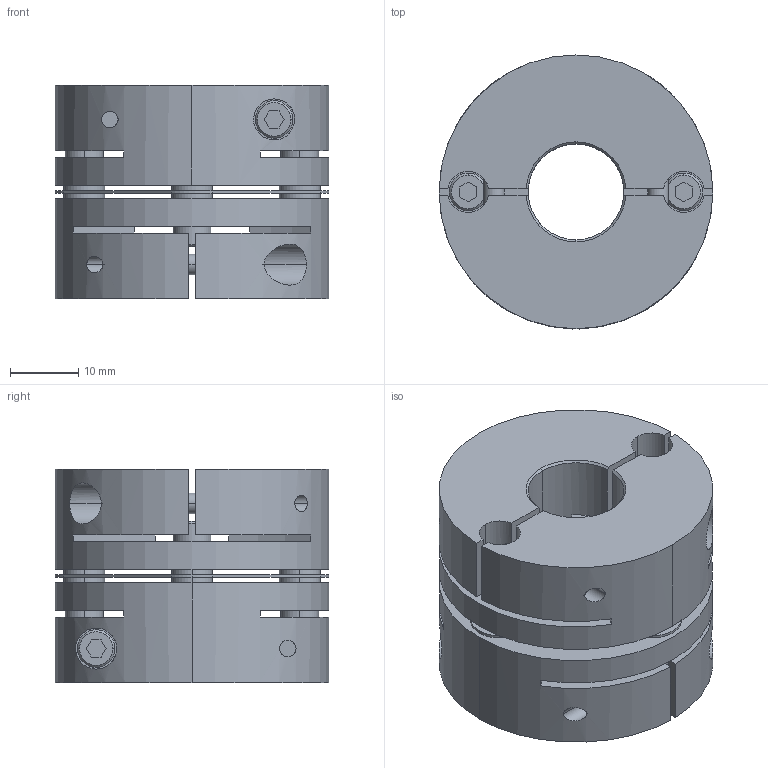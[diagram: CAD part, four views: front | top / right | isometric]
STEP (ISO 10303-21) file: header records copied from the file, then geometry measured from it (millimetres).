
FILE_DESCRIPTION((''),'2;1');
FILE_NAME('LAS-40C-14×20.stp','2011-08-11T09:02:29',(''),(''),'AutoCAD STEP 2000i','AutoCAD 2000i',', , ');
FILE_SCHEMA(('CONFIG_CONTROL_DESIGN'));
Length unit declared in the file: millimetre
Products named in the file (6): LAS-40C-10×15; 忣兜1; LA-4002-D15; LA-4002-D10-1; LA-4002-D10; LAS40-ITA
Assembly tree (5 placements, depth 2):
  LAS-40C-10×15
    忣兜1
    LA-4002-D15
    LA-4002-D10-1
    LA-4002-D10
    LAS40-ITA
Bounding box: 40 x 40 x 31.2 mm (x, y, z)
Volume: 27436.5 mm3; surface area: 14899.6 mm2
Topology: 1 solids, 1 shells, 236 faces, 624 edges, 408 vertices
Faces by surface type: plane 112, cylinder 96, cone 28
Entity records: 8177 total; most frequent: CARTESIAN_POINT 1970, DIRECTION 1304, ORIENTED_EDGE 1248, EDGE_CURVE 624, AXIS2_PLACEMENT_3D 478, VERTEX_POINT 408, VECTOR 348, LINE 348
